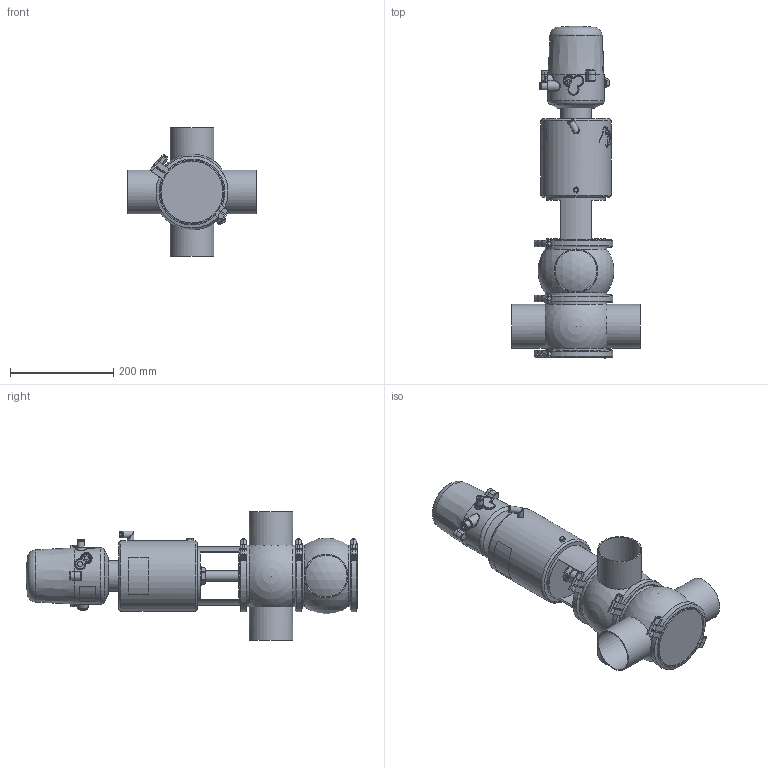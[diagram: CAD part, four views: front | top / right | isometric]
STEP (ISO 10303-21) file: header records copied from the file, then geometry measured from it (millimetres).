
FILE_DESCRIPTION (( 'STEP AP214' ), '1' );
FILE_NAME ('INNOVA M C W DIN 080 T3 AS NC & C-TOP S_10.241.16.0043.STEP', '2024-08-07T06:30:50', ( '' ), ( '' ), 'SwSTEP 2.0', 'SolidWorks 2023', '' );
FILE_SCHEMA (( 'AUTOMOTIVE_DESIGN' ));
Length unit declared in the file: millimetre
Products named in the file (8): 10.426.15.0001_C-TOP S - 1 EV; 10.240.15.0010_DN 080; 10.240.15.0007_DIN 080; 10.240.15.0017_Estàndard; 10.240.15.0014_T3 AS P180; 10.241.15.0001_DIN 080; 10.240.15.0001_DN 080; INNOVA M C W DIN 080 T3 AS NC & C-TOP S_10.241.16.0043
Assembly tree (10 placements, depth 2):
  INNOVA M C W DIN 080 T3 AS NC & C-TOP S_10.241.16.0043
    10.240.15.0007_DIN 080  x2
    10.240.15.0010_DN 080
    10.240.15.0014_T3 AS P180
    10.240.15.0017_Estàndard
    10.426.15.0001_C-TOP S - 1 EV
    10.240.15.0001_DN 080  x3
    10.241.15.0001_DIN 080
Bounding box: 250 x 643.63 x 250 mm (x, y, z)
Volume: 7330523.3 mm3; surface area: 650402.3 mm2
Topology: 11 solids, 11 shells, 1244 faces, 3038 edges, 2018 vertices
Faces by surface type: plane 444, cylinder 381, cone 211, bspline 160, torus 36, sphere 12
Full cylindrical faces by diameter (mm): 0.371 x17, 0.512 x16, 0.658 x16, 0.795 x16, 0.94 x15, 1.098 x15, 1.241 x13, 1.382 x13, 1.523 x11, 1.669 x10, 2.201 x1, 4 x2, 5.5 x2, 6 x2, 6.15 x1, 8 x8, 8.5 x1, 10 x1, 10.5 x1, 11 x2, 12.5 x3, 13 x2, 13.5 x2, 16 x1, 17 x3, 20 x3, 20.5 x1, 22 x2, 31 x1, 34.5 x3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
Entity records: 57910 total; most frequent: CARTESIAN_POINT 27767, ORIENTED_EDGE 4508, DIRECTION 3633, EDGE_CURVE 2254, VERTEX_POINT 1601, EDGE_LOOP 1553, AXIS2_PLACEMENT_3D 1488, FACE_OUTER_BOUND 1319
